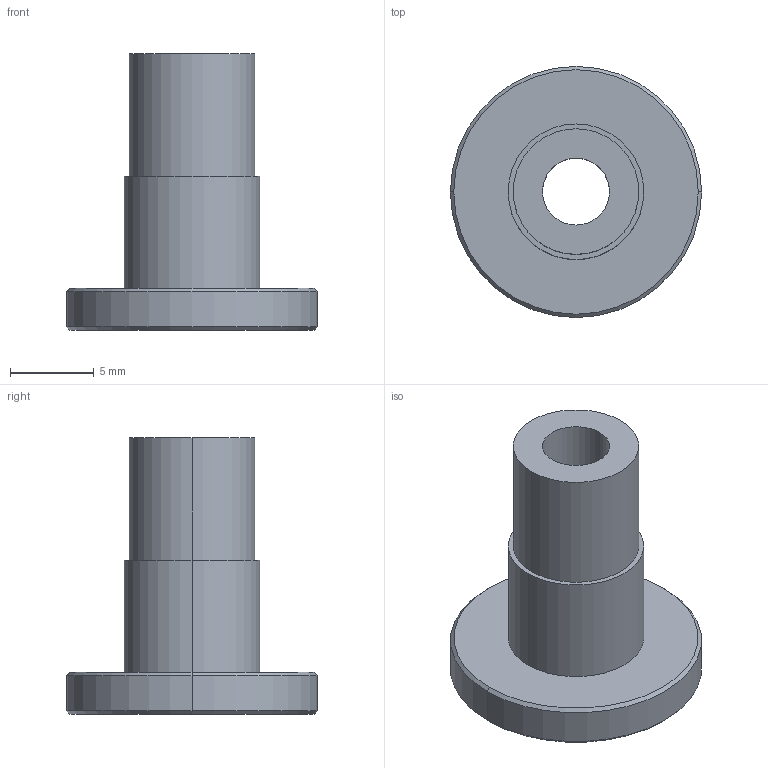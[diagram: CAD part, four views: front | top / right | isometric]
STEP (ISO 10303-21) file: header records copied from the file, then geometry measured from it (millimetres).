
FILE_DESCRIPTION (( 'STEP AP214' ), '1' );
FILE_NAME ('VM28-M8.STEP', '2023-03-07T07:48:38', ( 'Windows User' ), ( 'P R C' ), 'SwSTEP 2.0', 'SolidWorks 2019', '' );
FILE_SCHEMA (( 'AUTOMOTIVE_DESIGN' ));
Length unit declared in the file: millimetre
Products named in the file (1): VM28-M8
Bounding box: 15 x 15 x 16.5 mm (x, y, z)
Volume: 854.9 mm3; surface area: 1008.6 mm2
Topology: 1 solids, 1 shells, 23 faces, 50 edges, 32 vertices
Faces by surface type: plane 11, cylinder 8, cone 4
Entity records: 692 total; most frequent: DIRECTION 118, CARTESIAN_POINT 106, ORIENTED_EDGE 100, EDGE_CURVE 50, AXIS2_PLACEMENT_3D 44, VERTEX_POINT 32, LINE 30, VECTOR 30
